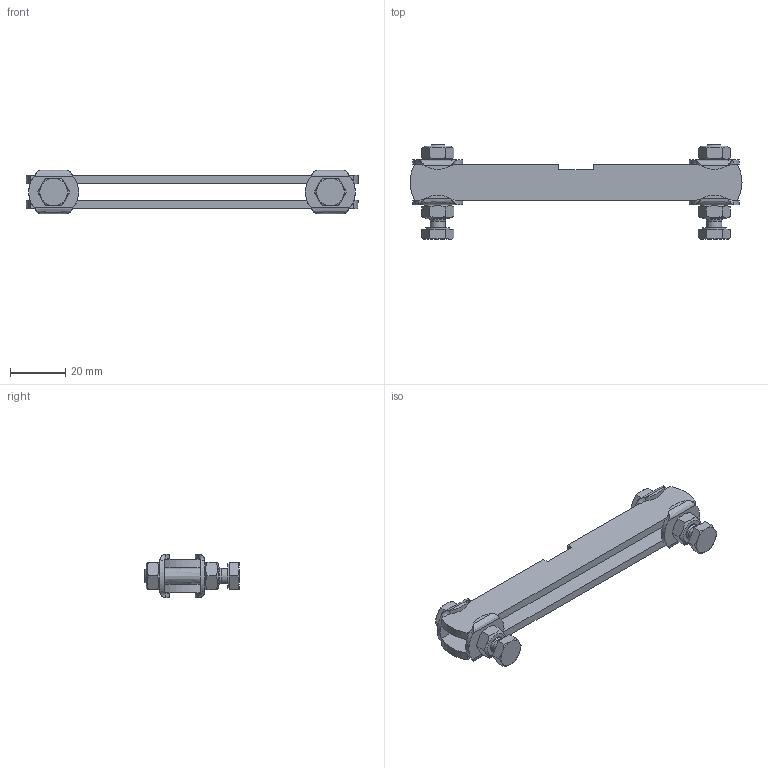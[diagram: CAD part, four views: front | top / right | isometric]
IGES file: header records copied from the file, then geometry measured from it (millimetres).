
Global section: file name: No Iges File Name specified; native system: AutoDesk Inventor R6.1; preprocessor: AutoDesk Inventor Iges Exporter R6.1; author: No Author specified; organization: No Organization specified; date: 20050928.105904; units: millimetre
Bounding box: 120 x 34 x 15.7 mm (x, y, z)
Surface area: 11411.3 mm2 (no closed solid volume)
Topology: 0 solids, 0 shells, 204 faces, 1030 edges, 1004 vertices
Faces by surface type: plane 114, revolution 74, bspline 16
